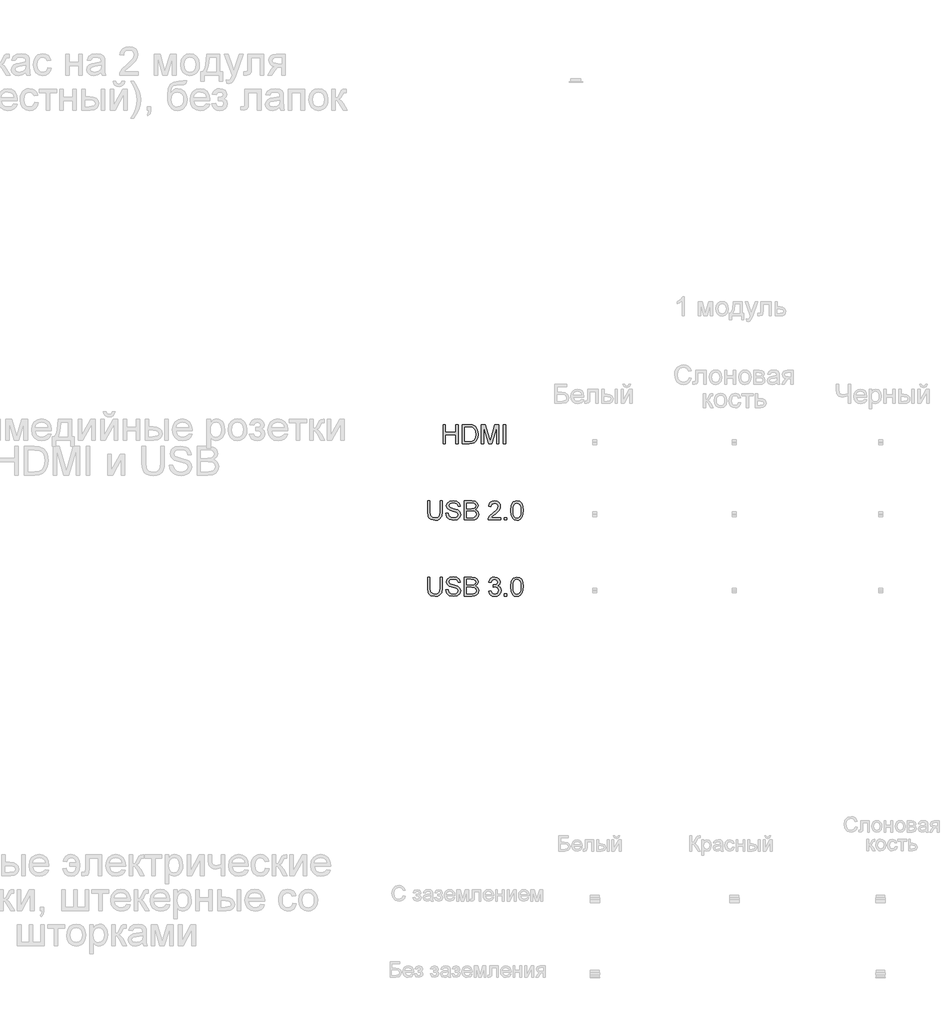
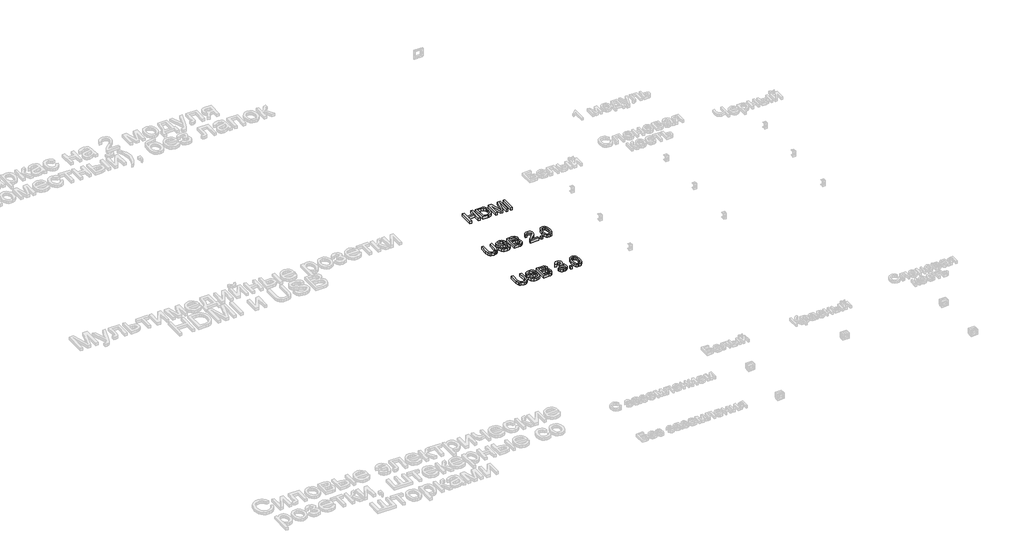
# One storey, part 13 of 47: 3 proxies.
"""IFC4 building model written with IfcOpenShell, lengths in millimetres."""

from ifc_helpers import new_model, si_unit, origin, origin_with_axes, place, context, project, spatial, polyline, outline, extrude, element, save

model = new_model("IFC4")

# Units and contexts
model_context = context("Model", 3, world=origin())
ifc_project = project(units=[si_unit("LENGTHUNIT", "METRE", prefix="MILLI")], contexts=[model_context])

# Site, building, storey
site = spatial("IfcSite", under=ifc_project)
building = spatial("IfcBuilding", under=site)
storey = spatial("IfcBuildingStorey", under=building, Name="Этаж 01", Elevation=0.0)

# Proxies
placement = place(None, origin())
element("IfcBuildingElementProxy", 1, Name="100 мм Arial", ObjectType="100 мм Arial", at=placement, inside=storey, context=model_context, shape_type="SweptSolid", body=[
    extrude(outline(polyline([(-691.3503999, -8375.4748677), (-691.3503999, -8275.0185576), (-678.7933612, -8275.0185576), (-678.7933612, -8315.8289336), (-625.4259464, -8315.8289336), (-625.4259464, -8275.0185576), (-612.8689076, -8275.0185576), (-612.8689076, -8375.4748677), (-625.4259464, -8375.4748677), (-625.4259464, -8328.3859723), (-678.7933612, -8328.3859723), (-678.7933612, -8375.4748677), (-691.3503999, -8375.4748677)])), origin_with_axes(), (0.0, 0.0, 1.0), 20.0),
    extrude(outline(polyline([(-590.8940898, -8375.4748677), (-590.8940898, -8275.0185576), (-556.2396058, -8275.0185576), (-538.3114899, -8276.4655601), (-523.5471592, -8283.6515217), (-511.652308, -8300.8193482), (-507.7037079, -8324.7071524), (-510.3769838, -8344.9774503), (-517.2441143, -8359.606891), (-526.4166388, -8368.7181017), (-538.4218545, -8373.7580851), (-554.5718741, -8375.4748677), (-590.8940898, -8375.4748677)]), holes=[polyline([(-578.337051, -8362.917829), (-556.1169785, -8362.917829), (-539.9546962, -8361.1029444), (-530.635019, -8355.977122), (-522.9953362, -8343.5059223), (-520.2607467, -8324.5109487), (-521.6004503, -8310.8257384), (-525.6195611, -8300.7212463), (-538.6548465, -8289.5866846), (-556.460335, -8287.5755963), (-578.337051, -8287.5755963), (-578.337051, -8362.917829)])]), origin_with_axes(), (0.0, 0.0, 1.0), 20.0),
    extrude(outline(polyline([(-490.4377796, -8375.4748677), (-490.4377796, -8275.0185576), (-468.8308438, -8275.0185576), (-448.278503, -8345.8235789), (-444.1336992, -8360.6124351), (-439.6455388, -8344.5973056), (-419.4365546, -8275.0185576), (-397.8296187, -8275.0185576), (-397.8296187, -8375.4748677), (-410.3866575, -8375.4748677), (-410.3866575, -8287.5755963), (-435.6233623, -8375.4748677), (-452.644036, -8375.4748677), (-477.8807409, -8287.5755963), (-477.8807409, -8375.4748677), (-490.4377796, -8375.4748677)])), origin_with_axes(), (0.0, 0.0, 1.0), 20.0),
    extrude(outline(polyline([(-374.285171, -8375.4748677), (-374.285171, -8275.0185576), (-361.7281322, -8275.0185576), (-361.7281322, -8375.4748677), (-374.285171, -8375.4748677)])), origin_with_axes(), (0.0, 0.0, 1.0), 20.0),
])
element("IfcBuildingElementProxy", 2, Name="100 мм Arial", ObjectType="100 мм Arial", at=placement, inside=storey, context=model_context, shape_type="SweptSolid", body=[
    extrude(outline(polyline([(-707.0466984, -8675.0185576), (-694.4896596, -8675.0185576), (-694.4896596, -8732.9722345), (-697.8986994, -8756.9949288), (-710.1859581, -8771.464954), (-720.4498657, -8775.6496117), (-733.4851511, -8777.0444976), (-756.4287249, -8772.1884552), (-764.0684076, -8766.2440953), (-769.1574419, -8758.1231003), (-772.9711519, -8732.9722345), (-772.9711519, -8675.0185576), (-760.4141131, -8675.0185576), (-760.4141131, -8732.5307761), (-757.937041, -8751.6729026), (-749.4267042, -8761.1519954), (-734.6623735, -8764.4874588), (-721.8907369, -8762.8381212), (-713.3987942, -8757.8901084), (-708.6347223, -8748.2516001), (-707.0466984, -8732.5307761), (-707.0466984, -8675.0185576)])), origin_with_axes(), (0.0, 0.0, 1.0), 20.0),
    extrude(outline(polyline([(-677.2237313, -8740.9430111), (-664.6666925, -8740.9430111), (-660.6199906, -8753.5123126), (-650.7362277, -8761.4585637), (-635.6775913, -8764.4874588), (-622.5564668, -8762.1943277), (-614.0829182, -8755.8912828), (-611.2992778, -8747.4667852), (-613.3839424, -8739.6308987), (-621.9188047, -8733.9287277), (-640.2025399, -8729.1339991), (-659.8842266, -8722.9413188), (-670.5650672, -8713.5971161), (-674.0844716, -8701.1136538), (-669.7312013, -8686.901146), (-657.014747, -8676.8702303), (-638.3999181, -8673.4489277), (-618.5342903, -8677.0296458), (-605.2905385, -8687.5510709), (-600.3118688, -8703.2718948), (-612.8689076, -8703.2718948), (-615.1743015, -8695.7793648), (-619.9812929, -8690.3714995), (-637.9094088, -8686.0059665), (-655.8865756, -8690.3224486), (-661.5274328, -8700.7457718), (-657.5297818, -8709.4523123), (-637.026492, -8716.4665957), (-614.8064195, -8722.7696405), (-602.6540509, -8732.9477091), (-598.742239, -8747.1479541), (-603.2426621, -8762.1698022), (-616.1921083, -8773.1326857), (-635.187082, -8777.0444976), (-657.615621, -8772.8261174), (-671.8036032, -8760.1219258), (-677.2237313, -8740.9430111)])), origin_with_axes(), (0.0, 0.0, 1.0), 20.0),
    extrude(outline(polyline([(-579.9066808, -8775.4748677), (-579.9066808, -8675.0185576), (-541.573377, -8675.0185576), (-522.7991325, -8677.9738763), (-511.7136217, -8687.0605615), (-507.7037079, -8699.9119059), (-511.0759596, -8711.6473416), (-521.2662908, -8720.5378231), (-508.893193, -8729.9065513), (-504.5644482, -8745.5292733), (-507.5197669, -8759.0305425), (-514.8406186, -8768.6445253), (-525.7667139, -8773.7458223), (-541.8676825, -8775.4748677), (-579.9066808, -8775.4748677)]), holes=[polyline([(-567.3496421, -8715.8289336), (-544.418331, -8715.8289336), (-531.0274264, -8714.749813), (-522.9708107, -8710.1022372), (-520.2607467, -8701.9229942), (-522.7868697, -8693.7314884), (-530.0218823, -8688.8877088), (-546.1596392, -8687.5755963), (-567.3496421, -8687.5755963), (-567.3496421, -8715.8289336)]), polyline([(-567.3496421, -8762.917829), (-541.5979024, -8762.917829), (-532.2782252, -8762.4273196), (-524.3932878, -8759.6927301), (-519.1693634, -8754.1131865), (-517.121487, -8745.6519006), (-519.5249827, -8735.890765), (-527.3118183, -8730.0659668), (-542.8241757, -8728.3859723), (-567.3496421, -8728.3859723), (-567.3496421, -8762.917829)])]), origin_with_axes(), (0.0, 0.0, 1.0), 20.0),
    extrude(outline(polyline([(-388.4118396, -8762.917829), (-388.4118396, -8775.4748677), (-454.3362932, -8775.4748677), (-452.9873925, -8766.8173781), (-445.3599725, -8753.4877871), (-429.6391486, -8738.9319229), (-407.9586363, -8718.0117001), (-402.5385082, -8703.7869296), (-407.652068, -8692.2722231), (-421.0061844, -8687.5755963), (-434.9243865, -8692.1618585), (-440.2096245, -8704.8415246), (-452.7666633, -8703.2718948), (-449.7224398, -8691.1256576), (-443.1404178, -8682.2535701), (-433.3639538, -8676.8273107), (-420.7364043, -8675.0185576), (-408.0168843, -8677.0296458), (-398.2588144, -8683.0629105), (-392.0508057, -8692.0760194), (-389.9814695, -8703.0266401), (-392.2132869, -8714.933754), (-399.6322405, -8727.2455382), (-417.62167, -8744.4501528), (-432.0671697, -8756.528945), (-437.7325524, -8762.917829), (-388.4118396, -8762.917829)])), origin_with_axes(), (0.0, 0.0, 1.0), 20.0),
    extrude(outline(polyline([(-369.5762815, -8775.4748677), (-369.5762815, -8762.917829), (-357.0192427, -8762.917829), (-357.0192427, -8775.4748677), (-369.5762815, -8775.4748677)])), origin_with_axes(), (0.0, 0.0, 1.0), 20.0),
    extrude(outline(polyline([(-336.6140547, -8726.056053), (-332.922972, -8697.1527909), (-321.9600886, -8680.4877366), (-303.6518279, -8675.0185576), (-288.9855991, -8678.2559191), (-278.8565815, -8687.5878591), (-272.9704695, -8702.4502917), (-270.6896012, -8726.056053), (-274.3438957, -8754.8366878), (-285.2699909, -8771.5385304), (-293.5013506, -8775.6680058), (-303.6518279, -8777.0444976), (-316.699376, -8774.6532646), (-326.6076644, -8767.4795657), (-334.1124571, -8750.4895489), (-336.6140547, -8726.056053)]), holes=[polyline([(-324.0570159, -8726.0315276), (-322.585488, -8745.783725), (-318.170904, -8757.215658), (-311.598079, -8762.6695086), (-303.6518279, -8764.4874588), (-295.7055768, -8762.6633772), (-289.1327519, -8757.1911326), (-284.7181679, -8745.7530682), (-283.2466399, -8726.0315276), (-284.669117, -8706.7238542), (-288.9365481, -8695.2030164), (-295.4971104, -8689.4824513), (-303.7989807, -8687.5755963), (-311.6593927, -8689.2555908), (-317.9747003, -8694.2955741), (-322.536437, -8706.5337818), (-324.0570159, -8726.0315276)])]), origin_with_axes(), (0.0, 0.0, 1.0), 20.0),
])
element("IfcBuildingElementProxy", 3, Name="100 мм Arial", ObjectType="100 мм Arial", at=placement, inside=storey, context=model_context, shape_type="SweptSolid", body=[
    extrude(outline(polyline([(-707.0466984, -9075.0185576), (-694.4896596, -9075.0185576), (-694.4896596, -9132.9722345), (-697.8986994, -9156.9949288), (-710.1859581, -9171.464954), (-720.4498657, -9175.6496117), (-733.4851511, -9177.0444976), (-756.4287249, -9172.1884552), (-764.0684076, -9166.2440953), (-769.1574419, -9158.1231003), (-772.9711519, -9132.9722345), (-772.9711519, -9075.0185576), (-760.4141131, -9075.0185576), (-760.4141131, -9132.5307761), (-757.937041, -9151.6729026), (-749.4267042, -9161.1519954), (-734.6623735, -9164.4874588), (-721.8907369, -9162.8381212), (-713.3987942, -9157.8901084), (-708.6347223, -9148.2516001), (-707.0466984, -9132.5307761), (-707.0466984, -9075.0185576)])), origin_with_axes(), (0.0, 0.0, 1.0), 20.0),
    extrude(outline(polyline([(-677.2237313, -9140.9430111), (-664.6666925, -9140.9430111), (-660.6199906, -9153.5123126), (-650.7362277, -9161.4585637), (-635.6775913, -9164.4874588), (-622.5564668, -9162.1943277), (-614.0829182, -9155.8912828), (-611.2992778, -9147.4667852), (-613.3839424, -9139.6308987), (-621.9188047, -9133.9287277), (-640.2025399, -9129.1339991), (-659.8842266, -9122.9413188), (-670.5650672, -9113.5971161), (-674.0844716, -9101.1136538), (-669.7312013, -9086.901146), (-657.014747, -9076.8702303), (-638.3999181, -9073.4489277), (-618.5342903, -9077.0296458), (-605.2905385, -9087.5510709), (-600.3118688, -9103.2718948), (-612.8689076, -9103.2718948), (-615.1743015, -9095.7793648), (-619.9812929, -9090.3714995), (-637.9094088, -9086.0059665), (-655.8865756, -9090.3224486), (-661.5274328, -9100.7457718), (-657.5297818, -9109.4523123), (-637.026492, -9116.4665957), (-614.8064195, -9122.7696405), (-602.6540509, -9132.9477091), (-598.742239, -9147.1479541), (-603.2426621, -9162.1698022), (-616.1921083, -9173.1326857), (-635.187082, -9177.0444976), (-657.615621, -9172.8261174), (-671.8036032, -9160.1219258), (-677.2237313, -9140.9430111)])), origin_with_axes(), (0.0, 0.0, 1.0), 20.0),
    extrude(outline(polyline([(-579.9066808, -9175.4748677), (-579.9066808, -9075.0185576), (-541.573377, -9075.0185576), (-522.7991325, -9077.9738763), (-511.7136217, -9087.0605615), (-507.7037079, -9099.9119059), (-511.0759596, -9111.6473416), (-521.2662908, -9120.5378231), (-508.893193, -9129.9065513), (-504.5644482, -9145.5292733), (-507.5197669, -9159.0305425), (-514.8406186, -9168.6445253), (-525.7667139, -9173.7458223), (-541.8676825, -9175.4748677), (-579.9066808, -9175.4748677)]), holes=[polyline([(-567.3496421, -9115.8289336), (-544.418331, -9115.8289336), (-531.0274264, -9114.749813), (-522.9708107, -9110.1022372), (-520.2607467, -9101.9229942), (-522.7868697, -9093.7314884), (-530.0218823, -9088.8877088), (-546.1596392, -9087.5755963), (-567.3496421, -9087.5755963), (-567.3496421, -9115.8289336)]), polyline([(-567.3496421, -9162.917829), (-541.5979024, -9162.917829), (-532.2782252, -9162.4273196), (-524.3932878, -9159.6927301), (-519.1693634, -9154.1131865), (-517.121487, -9145.6519006), (-519.5249827, -9135.890765), (-527.3118183, -9130.0659668), (-542.8241757, -9128.3859723), (-567.3496421, -9128.3859723), (-567.3496421, -9162.917829)])]), origin_with_axes(), (0.0, 0.0, 1.0), 20.0),
    extrude(outline(polyline([(-452.7666633, -9148.7911603), (-440.2096245, -9147.2215305), (-433.2811803, -9160.4407569), (-420.3194713, -9164.4874588), (-411.7110327, -9163.0956386), (-405.0646313, -9158.9201779), (-399.3992485, -9145.1368659), (-405.0155803, -9132.1506314), (-419.2894018, -9127.0125462), (-428.0940442, -9128.3859723), (-426.6960926, -9115.8289336), (-424.6850044, -9115.9760864), (-410.4357084, -9112.3708428), (-405.6900307, -9107.7968433), (-404.1081381, -9101.285332), (-408.6944003, -9091.4628828), (-420.5156751, -9087.5755963), (-432.4841026, -9091.499671), (-438.6399947, -9103.2718948), (-451.1970335, -9101.702265), (-447.4998194, -9090.4266818), (-440.9208631, -9082.0083155), (-431.9200169, -9076.765997), (-420.9571335, -9075.0185576), (-405.812658, -9078.4643856), (-395.2176565, -9087.8821647), (-391.5510993, -9100.549568), (-395.0337155, -9112.1255882), (-405.3344114, -9120.4397212), (-391.6492012, -9129.0236345), (-386.8422098, -9145.357595), (-389.2457055, -9157.5958028), (-396.4561926, -9167.8229222), (-407.3393683, -9174.7391037), (-420.7609297, -9177.0444976), (-432.9010356, -9175.0763289), (-442.7847985, -9169.1718229), (-449.6580605, -9160.1403199), (-452.7666633, -9148.7911603)])), origin_with_axes(), (0.0, 0.0, 1.0), 20.0),
    extrude(outline(polyline([(-369.5762815, -9175.4748677), (-369.5762815, -9162.917829), (-357.0192427, -9162.917829), (-357.0192427, -9175.4748677), (-369.5762815, -9175.4748677)])), origin_with_axes(), (0.0, 0.0, 1.0), 20.0),
    extrude(outline(polyline([(-336.6140547, -9126.056053), (-332.922972, -9097.1527909), (-321.9600886, -9080.4877366), (-303.6518279, -9075.0185576), (-288.9855991, -9078.2559191), (-278.8565815, -9087.5878591), (-272.9704695, -9102.4502917), (-270.6896012, -9126.056053), (-274.3438957, -9154.8366878), (-285.2699909, -9171.5385304), (-293.5013506, -9175.6680058), (-303.6518279, -9177.0444976), (-316.699376, -9174.6532646), (-326.6076644, -9167.4795657), (-334.1124571, -9150.4895489), (-336.6140547, -9126.056053)]), holes=[polyline([(-324.0570159, -9126.0315276), (-322.585488, -9145.783725), (-318.170904, -9157.215658), (-311.598079, -9162.6695086), (-303.6518279, -9164.4874588), (-295.7055768, -9162.6633772), (-289.1327519, -9157.1911326), (-284.7181679, -9145.7530682), (-283.2466399, -9126.0315276), (-284.669117, -9106.7238542), (-288.9365481, -9095.2030164), (-295.4971104, -9089.4824513), (-303.7989807, -9087.5755963), (-311.6593927, -9089.2555908), (-317.9747003, -9094.2955741), (-322.536437, -9106.5337818), (-324.0570159, -9126.0315276)])]), origin_with_axes(), (0.0, 0.0, 1.0), 20.0),
])

save(model, "model.ifc")
